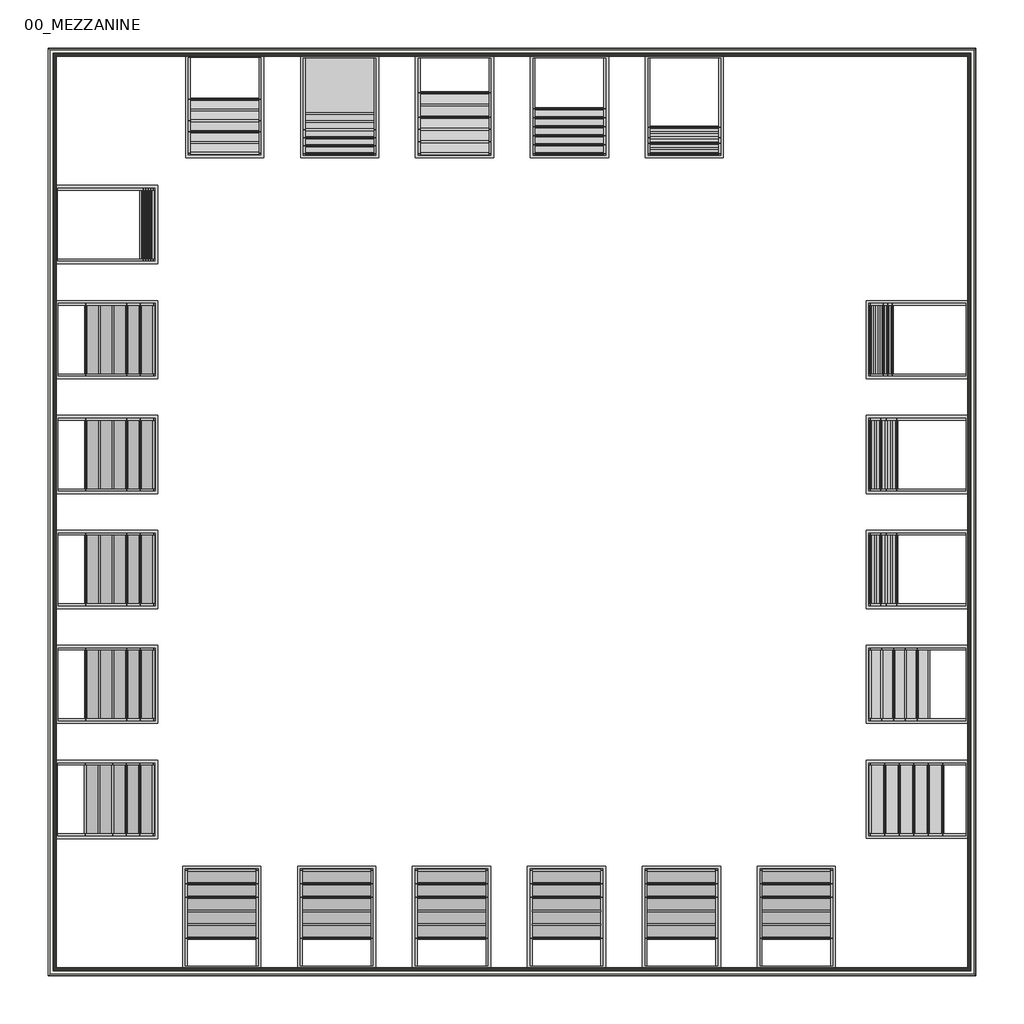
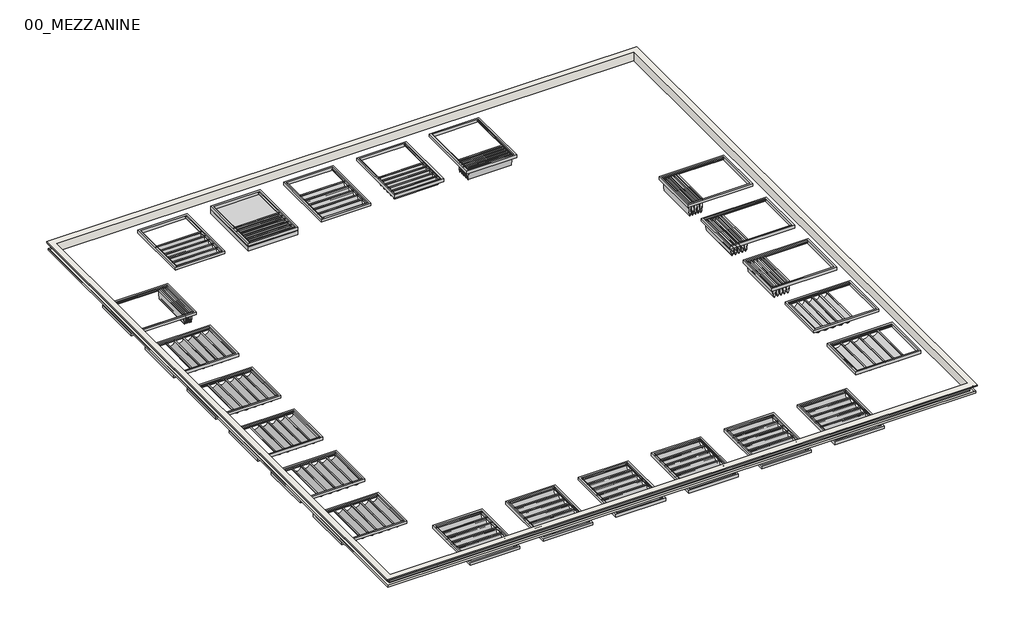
# One storey: 22 plates, 1 proxy, 1 wall.
"""IFC4 building model written with IfcOpenShell, lengths in millimetres."""

from ifc_helpers import new_model, si_unit, frame, origin, place, context, project, spatial, polyline, outline, extrude, transform, mapped, element, save
from components import drape_panel_drape_panel_09784488, drape_panel_drape_panel_c3b9369e, drape_panel_drape_panel_54859ce1, drape_panel_drape_panel_741b7121, drape_panel_drape_panel_c3243e83, drape_panel_drape_panel_99658d57, drape_panel_drape_panel_0830d013, drape_panel_drape_panel_9400ea7e, drape_panel_drape_panel_a66953bd, drape_panel_drape_panel_1e58a187, wall_606353de

model = new_model("IFC4")

# Units and contexts
model_context = context("Model", 3, world=origin())
ifc_project = project(units=[si_unit("LENGTHUNIT", "METRE", prefix="MILLI")], contexts=[model_context])

# Site, building, storey
site = spatial("IfcSite", under=ifc_project)
building = spatial("IfcBuilding", under=site)
storey = spatial("IfcBuildingStorey", under=building, Name="00_MEZZANINE", Elevation=3500.0)

# Proxy
placement = place(None, origin())
element("IfcBuildingElementProxy", 1, Name="Mass 2 : Mass 2", ObjectType="Mass 2 : Mass 2", at=placement, inside=storey, context=model_context, shape_type="SweptSolid", body=[
    extrude(outline(polyline([(-8023.5775323, 1224.3248489), (-6323.5775323, 1224.3248489), (-6323.5775323, -1004.430099), (-8023.5775323, -1004.430099), (-8023.5775323, 1224.3248489)])), frame((0.0, 0.0, 4050.0), z_axis=(0.0, 0.0, 1.0), x_axis=(1.0, 0.0, 0.0)), (0.0, 0.0, 1.0), 150.0),
])

# Plates
drape_panel_drape_panel_shape = drape_panel_drape_panel_09784488(model_context)
element("IfcPlate", 2, ObjectType="DRAPE_PANEL : DRAPE_PANEL", at=placement, inside=storey, context=model_context, shape_type="MappedRepresentation", body=[
    mapped(drape_panel_drape_panel_shape, transform((-13352.3324802, -4954.430099, 4275.0), x_axis=(0.0, -1.0, 0.0), y_axis=(0.0, 0.0, -1.0), z_axis=(1.0, 0.0, 0.0))),
])
element("IfcPlate", 3, ObjectType="DRAPE_PANEL : DRAPE_PANEL", at=placement, inside=storey, context=model_context, shape_type="MappedRepresentation", body=[
    mapped(drape_panel_drape_panel_shape, transform((-13352.3324802, -7454.430099, 4275.0), x_axis=(0.0, -1.0, 0.0), y_axis=(0.0, 0.0, -1.0), z_axis=(1.0, 0.0, 0.0))),
])
element("IfcPlate", 4, ObjectType="DRAPE_PANEL : DRAPE_PANEL", at=placement, inside=storey, context=model_context, shape_type="MappedRepresentation", body=[
    mapped(drape_panel_drape_panel_shape, transform((-13352.3324802, -9954.430099, 4275.0), x_axis=(0.0, -1.0, 0.0), y_axis=(0.0, 0.0, -1.0), z_axis=(1.0, 0.0, 0.0))),
])
element("IfcPlate", 5, ObjectType="DRAPE_PANEL : DRAPE_PANEL", at=placement, inside=storey, context=model_context, shape_type="MappedRepresentation", body=[
    mapped(drape_panel_drape_panel_shape, transform((-13352.3324802, -12454.430099, 4275.0), x_axis=(0.0, -1.0, 0.0), y_axis=(0.0, 0.0, -1.0), z_axis=(1.0, 0.0, 0.0))),
])
element("IfcPlate", 6, ObjectType="DRAPE_PANEL : DRAPE_PANEL", at=placement, inside=storey, context=model_context, shape_type="MappedRepresentation", body=[
    mapped(drape_panel_drape_panel_shape, transform((-13362.3324802, -14956.6204427, 4275.0), x_axis=(0.0, -1.0, 0.0), y_axis=(0.0, 0.0, -1.0), z_axis=(1.0, 0.0, 0.0))),
])
element("IfcPlate", 7, ObjectType="DRAPE_PANEL : DRAPE_PANEL", at=placement, inside=storey, context=model_context, shape_type="MappedRepresentation", body=[
    mapped(drape_panel_drape_panel_shape, transform((-9737.9550063, -18633.185047, 4275.0), x_axis=(1.0, 0.0, 0.0), y_axis=(0.0, 0.0, -1.0), z_axis=(0.0, 1.0, 0.0))),
])
element("IfcPlate", 8, ObjectType="DRAPE_PANEL : DRAPE_PANEL", at=placement, inside=storey, context=model_context, shape_type="MappedRepresentation", body=[
    mapped(drape_panel_drape_panel_shape, transform((-7237.9550063, -18633.185047, 4275.0), x_axis=(1.0, 0.0, 0.0), y_axis=(0.0, 0.0, -1.0), z_axis=(0.0, 1.0, 0.0))),
])
element("IfcPlate", 9, ObjectType="DRAPE_PANEL : DRAPE_PANEL", at=placement, inside=storey, context=model_context, shape_type="MappedRepresentation", body=[
    mapped(drape_panel_drape_panel_shape, transform((-4737.9550063, -18633.185047, 4275.0), x_axis=(1.0, 0.0, 0.0), y_axis=(0.0, 0.0, -1.0), z_axis=(0.0, 1.0, 0.0))),
])
element("IfcPlate", 10, ObjectType="DRAPE_PANEL : DRAPE_PANEL", at=placement, inside=storey, context=model_context, shape_type="MappedRepresentation", body=[
    mapped(drape_panel_drape_panel_shape, transform((-2237.9550063, -18633.185047, 4275.0), x_axis=(1.0, 0.0, 0.0), y_axis=(0.0, 0.0, -1.0), z_axis=(0.0, 1.0, 0.0))),
])
element("IfcPlate", 11, ObjectType="DRAPE_PANEL : DRAPE_PANEL", at=placement, inside=storey, context=model_context, shape_type="MappedRepresentation", body=[
    mapped(drape_panel_drape_panel_shape, transform((262.0449937, -18633.185047, 4275.0), x_axis=(1.0, 0.0, 0.0), y_axis=(0.0, 0.0, -1.0), z_axis=(0.0, 1.0, 0.0))),
])
element("IfcPlate", 12, ObjectType="DRAPE_PANEL : DRAPE_PANEL", at=placement, inside=storey, context=model_context, shape_type="MappedRepresentation", body=[
    mapped(drape_panel_drape_panel_shape, transform((2762.0449937, -18633.185047, 4275.0), x_axis=(1.0, 0.0, 0.0), y_axis=(0.0, 0.0, -1.0), z_axis=(0.0, 1.0, 0.0))),
])
drape_panel_drape_panel_2_shape = drape_panel_drape_panel_c3b9369e(model_context)
element("IfcPlate", 13, ObjectType="DRAPE_PANEL : DRAPE_PANEL", at=placement, inside=storey, context=model_context, shape_type="MappedRepresentation", body=[
    mapped(drape_panel_drape_panel_2_shape, transform((-4673.5775323, 1224.3248489, 4275.0), x_axis=(-1.0, 0.0, 0.0), y_axis=(0.0, 0.0, -1.0), z_axis=(0.0, -1.0, 0.0))),
])
drape_panel_drape_panel_3_shape = drape_panel_drape_panel_54859ce1(model_context)
element("IfcPlate", 14, ObjectType="DRAPE_PANEL : DRAPE_PANEL", at=placement, inside=storey, context=model_context, shape_type="MappedRepresentation", body=[
    mapped(drape_panel_drape_panel_3_shape, transform((-2173.5775323, 1224.3248489, 4275.0), x_axis=(-1.0, 0.0, 0.0), y_axis=(0.0, 0.0, -1.0), z_axis=(0.0, -1.0, 0.0))),
])
drape_panel_drape_panel_4_shape = drape_panel_drape_panel_741b7121(model_context)
element("IfcPlate", 15, ObjectType="DRAPE_PANEL : DRAPE_PANEL", at=placement, inside=storey, context=model_context, shape_type="MappedRepresentation", body=[
    mapped(drape_panel_drape_panel_4_shape, transform((326.4224677, 1224.3248489, 4275.0), x_axis=(-1.0, 0.0, 0.0), y_axis=(0.0, 0.0, -1.0), z_axis=(0.0, -1.0, 0.0))),
])
element("IfcPlate", 16, ObjectType="DRAPE_PANEL : DRAPE_PANEL", at=placement, inside=storey, context=model_context, shape_type="MappedRepresentation", body=[
    mapped(drape_panel_drape_panel_4_shape, transform((6505.1774156, -7454.430099, 4275.0), x_axis=(0.0, 1.0, 0.0), y_axis=(0.0, 0.0, -1.0), z_axis=(-1.0, 0.0, 0.0))),
])
element("IfcPlate", 17, ObjectType="DRAPE_PANEL : DRAPE_PANEL", at=placement, inside=storey, context=model_context, shape_type="MappedRepresentation", body=[
    mapped(drape_panel_drape_panel_4_shape, transform((6505.1774156, -9954.430099, 4275.0), x_axis=(0.0, 1.0, 0.0), y_axis=(0.0, 0.0, -1.0), z_axis=(-1.0, 0.0, 0.0))),
])
drape_panel_drape_panel_5_shape = drape_panel_drape_panel_c3243e83(model_context)
element("IfcPlate", 18, ObjectType="DRAPE_PANEL : DRAPE_PANEL", at=placement, inside=storey, context=model_context, shape_type="MappedRepresentation", body=[
    mapped(drape_panel_drape_panel_5_shape, transform((-7173.5775323, 1224.3248489, 4275.0), x_axis=(-1.0, 0.0, 0.0), y_axis=(0.0, 0.0, -1.0), z_axis=(0.0, -1.0, 0.0))),
])
drape_panel_drape_panel_6_shape = drape_panel_drape_panel_99658d57(model_context)
element("IfcPlate", 19, ObjectType="DRAPE_PANEL : DRAPE_PANEL", at=placement, inside=storey, context=model_context, shape_type="MappedRepresentation", body=[
    mapped(drape_panel_drape_panel_6_shape, transform((-9673.5775323, 1234.3248489, 4275.0), x_axis=(-1.0, 0.0, 0.0), y_axis=(0.0, 0.0, -1.0), z_axis=(0.0, -1.0, 0.0))),
])
drape_panel_drape_panel_7_shape = drape_panel_drape_panel_0830d013(model_context)
element("IfcPlate", 20, ObjectType="DRAPE_PANEL : DRAPE_PANEL", at=placement, inside=storey, context=model_context, shape_type="MappedRepresentation", body=[
    mapped(drape_panel_drape_panel_7_shape, transform((-13362.3324802, -2452.2397554, 4275.0), x_axis=(0.0, -1.0, 0.0), y_axis=(0.0, 0.0, -1.0), z_axis=(1.0, 0.0, 0.0))),
])
drape_panel_drape_panel_8_shape = drape_panel_drape_panel_9400ea7e(model_context)
element("IfcPlate", 21, ObjectType="DRAPE_PANEL : DRAPE_PANEL", at=placement, inside=storey, context=model_context, shape_type="MappedRepresentation", body=[
    mapped(drape_panel_drape_panel_8_shape, transform((6505.1774156, -14954.430099, 4275.0), x_axis=(0.0, 1.0, 0.0), y_axis=(0.0, 0.0, -1.0), z_axis=(-1.0, 0.0, 0.0))),
])
drape_panel_drape_panel_9_shape = drape_panel_drape_panel_a66953bd(model_context)
element("IfcPlate", 22, ObjectType="DRAPE_PANEL : DRAPE_PANEL", at=placement, inside=storey, context=model_context, shape_type="MappedRepresentation", body=[
    mapped(drape_panel_drape_panel_9_shape, transform((6505.1774156, -12454.430099, 4275.0), x_axis=(0.0, 1.0, 0.0), y_axis=(0.0, 0.0, -1.0), z_axis=(-1.0, 0.0, 0.0))),
])
drape_panel_drape_panel_10_shape = drape_panel_drape_panel_1e58a187(model_context)
element("IfcPlate", 23, ObjectType="DRAPE_PANEL : DRAPE_PANEL", at=placement, inside=storey, context=model_context, shape_type="MappedRepresentation", body=[
    mapped(drape_panel_drape_panel_10_shape, transform((6505.1774156, -4954.430099, 4275.0), x_axis=(0.0, 1.0, 0.0), y_axis=(0.0, 0.0, -1.0), z_axis=(-1.0, 0.0, 0.0))),
])

# Wall
wall_shape = wall_606353de(model_context)
element("IfcWall", 24, ObjectType="CORNICE OVER ARCHES : CORNICE OVER ARCHES", at=placement, inside=storey, context=model_context, shape_type="MappedRepresentation", body=[
    mapped(wall_shape, transform((0.0, 0.0, 0.0), x_axis=(1.0, 0.0, 0.0), y_axis=(0.0, 1.0, 0.0), z_axis=(0.0, 0.0, 1.0))),
])

save(model, "model.ifc")
